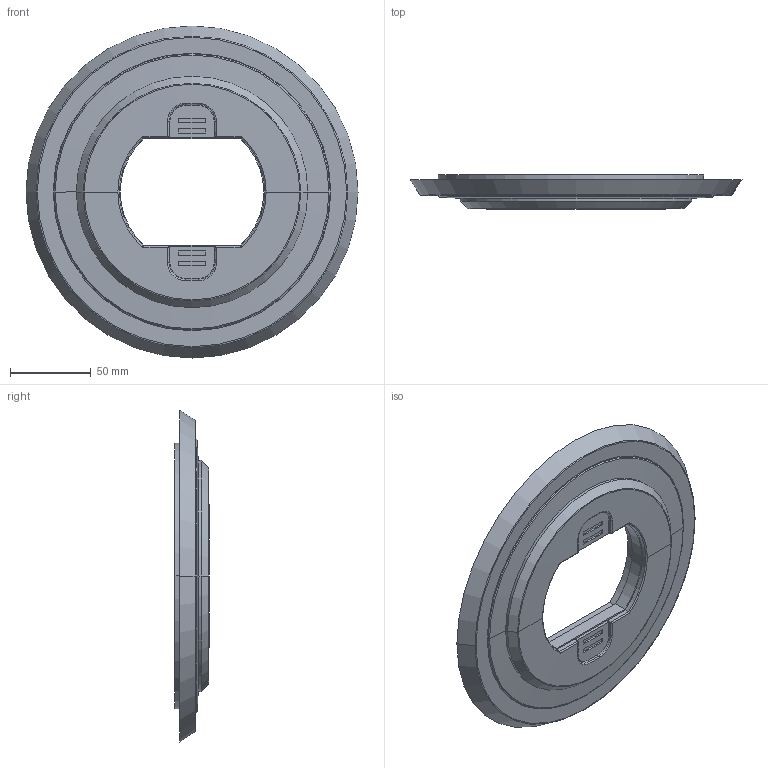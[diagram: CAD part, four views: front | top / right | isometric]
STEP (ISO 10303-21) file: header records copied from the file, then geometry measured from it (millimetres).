
FILE_DESCRIPTION(/* description */ ('STEP AP242 Edition 2','CAx-IF Rec.Pracs.---Representation and Presentation of Product Manufacturing Information (PMI)---4.0---2014-10-13','CAx-IF Rec.Pracs.---3D Tessellated Geometry---0.4---2014-09-14','2;1','CAx-IF Rec.Pracs.---User Defined Attributes---1.5---2016-08-15'),/* implementation_level */ '2;1');
FILE_NAME(/* name */ 'energy_shield_grenade - Part 4',/* time_stamp */ '2026-02-18T00:38:35Z',/* author */ (''),/* organization */ (''),/* preprocessor_version */ 'ST-DEVELOPER v20',/* originating_system */ 'ONSHAPE BY PTC INC, 1.210',/* authorisation */ ' ');
FILE_SCHEMA (('AP242_MANAGED_MODEL_BASED_3D_ENGINEERING_MIM_LF { 1 0 10303 442 3 1 4 }'));
Length unit declared in the file: metre
Products named in the file (1): Part 4
Bounding box: 205.02 x 21.13 x 205.02 mm (x, y, z)
Volume: 365658.3 mm3; surface area: 68851.2 mm2
Topology: 1 solids, 1 shells, 102 faces, 250 edges, 156 vertices
Faces by surface type: bspline 102
Entity records: 3822 total; most frequent: CARTESIAN_POINT 1833, ORIENTED_EDGE 492, DIRECTION 258, EDGE_CURVE 246, VERTEX_POINT 156, LINE 118, VECTOR 118, EDGE_LOOP 114
